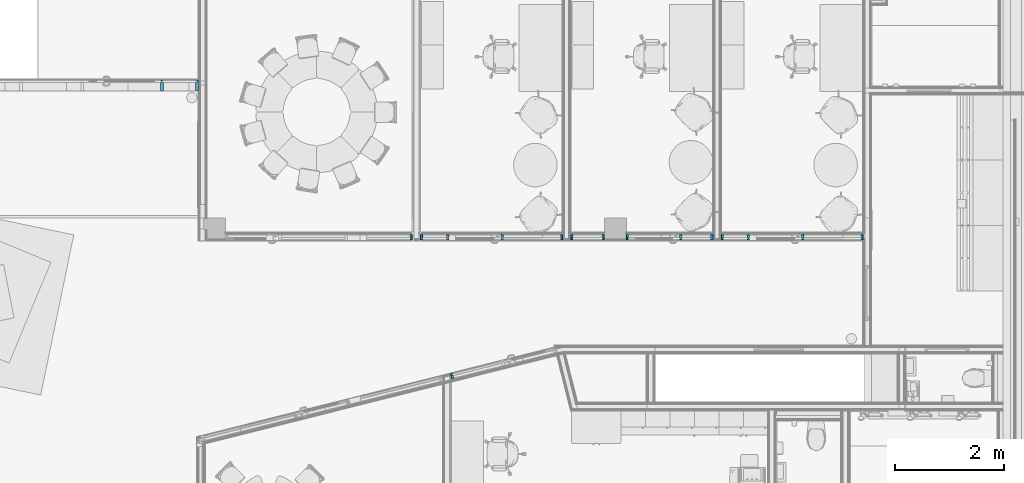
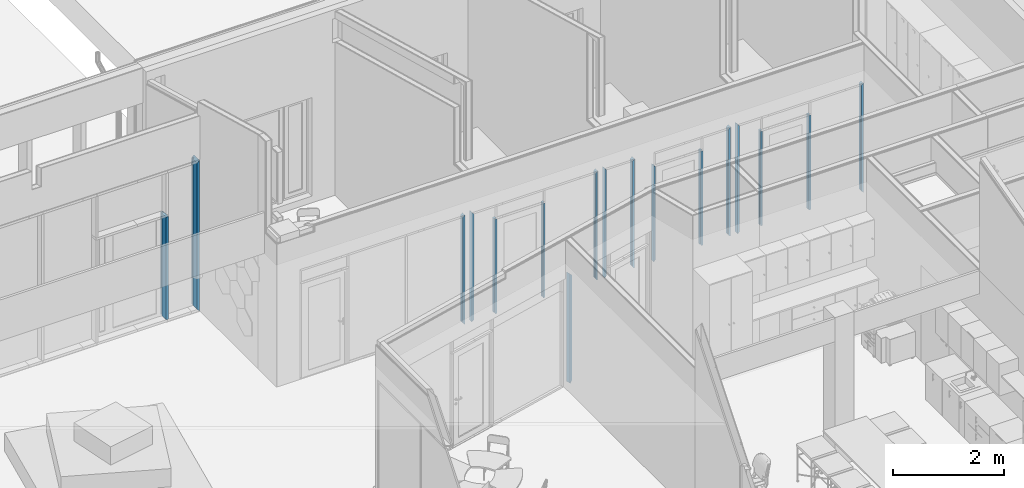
# One storey, part 3 of 153: 17 members, 7 elements without a shape of their own.
"""IFC2X3 building model written with IfcOpenShell, lengths in millimetres."""

from ifc_helpers import new_model, entity, si_unit, converted_unit, derived_unit, money_unit, direction, frame, origin_with_axes, place, context, subcontext, project, spatial, faceted_brep, source, transform, mapped, material, type_object, element, aggregate, save


model = new_model("IFC2X3")

# Units and contexts
model_context = context("Model", 3, precision=0.01, world=origin_with_axes(), true_north=direction((0.0, 1.0)))
body_context = subcontext(model_context, "Body", "Model", "MODEL_VIEW")
ifc_project = project(units=[si_unit("LENGTHUNIT", "METRE", prefix="MILLI"), si_unit("AREAUNIT", "SQUARE_METRE"), si_unit("VOLUMEUNIT", "CUBIC_METRE"), converted_unit("PLANEANGLEUNIT", "DEGREE", entity("IfcPlaneAngleMeasure", 0.0174532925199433), si_unit("PLANEANGLEUNIT", "RADIAN"), dimensions=[0, 0, 0, 0, 0, 0, 0]), money_unit("EUR"), converted_unit("TIMEUNIT", "Year", entity("IfcTimeMeasure", 31557600.0), si_unit("TIMEUNIT", "SECOND"), dimensions=[0, 0, 1, 0, 0, 0, 0]), si_unit("MASSUNIT", "GRAM", prefix="KILO"), si_unit("THERMODYNAMICTEMPERATUREUNIT", "DEGREE_CELSIUS"), si_unit("LUMINOUSINTENSITYUNIT", "LUMEN"), si_unit("ENERGYUNIT", "JOULE", prefix="MEGA"), derived_unit("THERMALCONDUCTANCEUNIT", [(si_unit("POWERUNIT", "WATT"), 1), (si_unit("LENGTHUNIT", "METRE"), -1), (si_unit("THERMODYNAMICTEMPERATUREUNIT", "KELVIN"), -1)]), derived_unit("SPECIFICHEATCAPACITYUNIT", [(si_unit("ENERGYUNIT", "JOULE"), 1), (si_unit("MASSUNIT", "GRAM", prefix="KILO"), -1), (si_unit("THERMODYNAMICTEMPERATUREUNIT", "KELVIN"), -1)]), derived_unit("MASSDENSITYUNIT", [(si_unit("MASSUNIT", "GRAM", prefix="KILO"), 1), (si_unit("VOLUMEUNIT", "CUBIC_METRE"), -1)])], contexts=[model_context])

# Site, building, storey
site_placement = place(None, frame((0.0, 0.0, 8650.0), z_axis=(0.0, 0.0, 1.0), x_axis=(1.0, 0.0, 0.0)))
site = spatial("IfcSite", under=ifc_project, at=site_placement, Name="43301:001:0844", CompositionType="ELEMENT")
building_placement = place(site_placement, origin_with_axes())
building = spatial("IfcBuilding", under=site, at=building_placement, Name="Kuressaare Ametikooli tuulikute mehaanikute õppekorpus", CompositionType="ELEMENT")
storey_placement = place(building_placement, frame((0.0, 0.0, 4100.0), z_axis=(0.0, 0.0, 1.0), x_axis=(1.0, 0.0, 0.0)))
storey = spatial("IfcBuildingStorey", under=building, at=storey_placement, Name="2.korrus", CompositionType="ELEMENT", Elevation=4100.0)

# Curtain wall, members
curtain_wall_type = type_object("IfcCurtainWallType", Name="Curtain Wall Type", PredefinedType="NOTDEFINED")
curtain_wall_1_placement = place(storey_placement, frame((116907.3849272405, 26479.57374875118, 34.9999663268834), z_axis=(0.0, 0.0, 1.0), x_axis=(1.0, 0.0, 0.0)))
curtain_wall_1 = element("IfcCurtainWall", 1, at=curtain_wall_1_placement, inside=storey, type_object=curtain_wall_type, Name="SKF-2.2,EI60")
ifc_material = material(Name="Aluminium")
member_type_1 = type_object("IfcMemberType", Name="Mullion Frame 50 x 200", PredefinedType="NOTDEFINED")
shared_shape_1 = source(origin_with_axes(), body_context, "Body", "Brep", [
    faceted_brep([(5.000000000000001, -20.0, 2275.000031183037), (5.000000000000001, 20.0, 2275.000031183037), (25.0, 19.99999999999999, 2275.000031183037), (25.0, 30.0, 2275.000031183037), (-25.0, 30.0, 2275.000031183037), (-25.0, 20.0, 2275.000031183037), (-5.000000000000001, 20.0, 2275.000031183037), (-5.000000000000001, -20.0, 2275.000031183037), (-25.0, -20.0, 2275.000031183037), (-25.0, -170.0, 2275.000031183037), (25.0, -170.0, 2275.000031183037), (25.0, -19.99999999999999, 2275.000031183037), (5.000000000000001, -20.0, 24.99999999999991), (5.000000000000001, 20.0, 24.99999999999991), (25.0, 20.0, 24.99999999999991), (25.0, 30.0, 24.99999999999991), (-25.0, 30.0, 24.99999999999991), (-25.0, 19.99999999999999, 24.99999999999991), (-5.000000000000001, 20.0, 24.99999999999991), (-5.000000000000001, -20.0, 24.99999999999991), (-25.0, -19.99999999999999, 24.99999999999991), (-25.0, -170.0, 24.99999999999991), (25.0, -170.0, 24.99999999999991), (25.0, -20.0, 24.99999999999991)], [[[0, 1, 2, 3, 4, 5, 6, 7, 8, 9, 10, 11]], [[0, 12, 13, 1]], [[1, 13, 14, 2]], [[14, 15, 3, 2]], [[4, 3, 15, 16]], [[17, 5, 4, 16]], [[5, 17, 18, 6]], [[7, 6, 18, 19]], [[8, 7, 19, 20]], [[8, 20, 21, 9]], [[10, 9, 21, 22]], [[11, 10, 22, 23]], [[11, 23, 12, 0]], [[13, 12, 23, 22, 21, 20, 19, 18, 17, 16, 15, 14]]]),
])
member_1_placement = place(curtain_wall_1_placement, frame((694.7177815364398, 0.0, 0.0), z_axis=(0.0, 0.0, 1.0), x_axis=(-1.0, 0.0, 0.0)))
member_1 = element("IfcMember", 2, at=member_1_placement, type_object=member_type_1, material=ifc_material, context=body_context, shape_type="MappedRepresentation", body=[
    mapped(shared_shape_1, transform((0.0, 0.0, 0.0), x_axis=(-1.0, 0.0, 0.0), y_axis=(0.0, -1.0, 0.0), z_axis=(0.0, 0.0, 1.0))),
])
member_type_2 = type_object("IfcMemberType", Name="Boundary Frame 50 x 200", PredefinedType="NOTDEFINED")
shared_shape_2 = source(origin_with_axes(), body_context, "Body", "Brep", [
    faceted_brep([(-5.000000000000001, -20.0, 3255.000092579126), (-25.0, -20.0, 3235.000090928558), (-25.0, -170.0, 3235.000090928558), (25.0, -170.0, 3285.000095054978), (25.0, 30.0, 3285.000095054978), (-25.0, 30.0, 3235.000090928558), (-25.0, 20.0, 3235.000090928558), (-5.000000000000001, 20.0, 3255.000092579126), (-5.000000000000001, -20.0, 4.999999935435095), (-25.0, -19.99999999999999, 24.99999967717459), (-25.0, -170.0, 24.99999967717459), (25.0, -170.0, -24.99999967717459), (25.0, 30.0, -24.99999967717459), (-25.0, 30.0, 24.99999967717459), (-25.0, 19.99999999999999, 24.99999967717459), (-5.000000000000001, 20.0, 4.999999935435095)], [[[0, 1, 2, 3, 4, 5, 6, 7]], [[0, 8, 9, 1]], [[9, 10, 2, 1]], [[2, 10, 11, 3]], [[3, 11, 12, 4]], [[4, 12, 13, 5]], [[6, 5, 13, 14]], [[14, 15, 7, 6]], [[7, 15, 8, 0]], [[8, 15, 14, 13, 12, 11, 10, 9]]]),
])
member_2_placement = place(curtain_wall_1_placement, frame((1338.89088704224, 0.0, 0.0), z_axis=(0.0, 0.0, 1.0), x_axis=(-1.0, 0.0, 0.0)))
member_2 = element("IfcMember", 3, at=member_2_placement, type_object=member_type_2, material=ifc_material, context=body_context, shape_type="MappedRepresentation", body=[
    mapped(shared_shape_2, transform((0.0, 0.0, 0.0), x_axis=(-1.0, 0.0, 0.0), y_axis=(0.0, -1.0, 0.0), z_axis=(0.0, 0.0, 1.0))),
])
aggregate(curtain_wall_1, [member_2, member_1])

# Curtain wall, member
curtain_wall_2_placement = place(storey_placement, frame((123471.3194861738, 21235.04693506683, 4.768376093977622e-05), z_axis=(0.0, 0.0, 1.0), x_axis=(1.0, 0.0, 0.0)))
curtain_wall_2 = element("IfcCurtainWall", 4, at=curtain_wall_2_placement, inside=storey, type_object=curtain_wall_type, Name="PKF-2.3")
member_type_3 = type_object("IfcMemberType", Name="Boundary Frame 40 x 90", PredefinedType="NOTDEFINED")
shared_shape_3 = source(origin_with_axes(), body_context, "Body", "Brep", [
    faceted_brep([(25.0, -15.0, 2375.000049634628), (25.0, 15.0, 2375.000049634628), (40.0, 15.0, 2360.000049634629), (40.0, 24.99999999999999, 2360.000049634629), (0.0, 24.99999999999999, 2400.000049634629), (0.0, 0.0, 2400.000049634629), (0.0, -65.0, 2400.000049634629), (40.0, -65.0, 2360.000049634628), (40.0, -15.0, 2360.000049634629), (25.0, -15.0, 24.99999999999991), (25.0, 15.0, 24.99999999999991), (40.0, 15.0, 40.00000000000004), (40.0, 24.99999999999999, 40.00000000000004), (0.0, 24.99999999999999, 0.0), (0.0, 0.0, 0.0), (0.0, -65.0, 0.0), (40.0, -65.0, 40.00000000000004), (40.0, -15.0, 40.00000000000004)], [[[0, 1, 2, 3, 4, 5, 6, 7, 8]], [[1, 0, 9, 10]], [[11, 2, 1, 10]], [[2, 11, 12, 3]], [[4, 3, 12, 13]], [[5, 4, 13, 14]], [[6, 5, 14, 15]], [[7, 6, 15, 16]], [[17, 8, 7, 16]], [[0, 8, 17, 9]], [[9, 17, 16, 15, 14, 13, 12, 11, 10]]]),
])
member_3_placement = place(curtain_wall_2_placement, frame((-573.9802841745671, -143.8645651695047, -4.768376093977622e-05), z_axis=(0.0, 0.0, 1.0), x_axis=(0.9699953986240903, 0.2431232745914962, 0.0)))
member_3 = element("IfcMember", 5, at=member_3_placement, type_object=member_type_3, material=ifc_material, context=body_context, shape_type="MappedRepresentation", body=[
    mapped(shared_shape_3, transform((0.0, 0.0, 0.0))),
])
aggregate(curtain_wall_2, [member_3])

curtain_wall_3_placement = place(storey_placement, frame((119422.8886145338, 23599.06892395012, 7.49398259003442e-05), z_axis=(0.0, 0.0, 1.0), x_axis=(1.0, 0.0, 0.0)))
curtain_wall_3 = element("IfcCurtainWall", 6, at=curtain_wall_3_placement, inside=storey, type_object=curtain_wall_type, Name="PKF-1.1")
member_4_placement = place(curtain_wall_3_placement, frame((2774.17979842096, 0.0, -7.493982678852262e-05), z_axis=(0.0, 0.0, 1.0), x_axis=(-1.0, 0.0, 0.0)))
member_4 = element("IfcMember", 7, at=member_4_placement, type_object=member_type_3, material=ifc_material, context=body_context, shape_type="MappedRepresentation", body=[
    mapped(shared_shape_3, transform((0.0, 0.0, 0.0))),
])
aggregate(curtain_wall_3, [member_4])

# Curtain wall, members
curtain_wall_4_placement = place(storey_placement, frame((123223.4159387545, 23599.06892395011, 7.152564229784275e-05), z_axis=(0.0, 0.0, 1.0), x_axis=(1.0, 0.0, 0.0)))
curtain_wall_4 = element("IfcCurtainWall", 8, at=curtain_wall_4_placement, inside=storey, type_object=curtain_wall_type, Name="PKF-1.2")
member_5_placement = place(curtain_wall_4_placement, frame((1730.652442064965, 0.0, -7.152564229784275e-05), z_axis=(0.0, 0.0, 1.0), x_axis=(-1.0, 0.0, 0.0)))
member_5 = element("IfcMember", 9, at=member_5_placement, type_object=member_type_3, material=ifc_material, context=body_context, shape_type="MappedRepresentation", body=[
    mapped(shared_shape_3, transform((0.0, 0.0, 0.0))),
])
member_6_placement = place(curtain_wall_4_placement, frame((-879.3476149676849, 0.0, 2400.000009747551), z_axis=(0.0, 0.0, -1.0), x_axis=(1.0, 0.0, 0.0)))
member_6 = element("IfcMember", 10, at=member_6_placement, type_object=member_type_3, material=ifc_material, context=body_context, shape_type="MappedRepresentation", body=[
    mapped(shared_shape_3, transform((0.0, 0.0, 0.0))),
])

curtain_wall_5_placement = place(storey_placement, frame((125409.5683670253, 23599.06892395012, 7.152564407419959e-05), z_axis=(0.0, 0.0, 1.0), x_axis=(1.0, 0.0, 0.0)))
curtain_wall_5 = element("IfcCurtainWall", 11, at=curtain_wall_5_placement, inside=storey, type_object=curtain_wall_type, Name="PKF-1.3")
member_7_placement = place(curtain_wall_5_placement, frame((-308.500043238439, 0.0, 2399.999999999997), z_axis=(0.0, 0.0, -1.0), x_axis=(1.0, 0.0, 0.0)))
member_7 = element("IfcMember", 12, at=member_7_placement, type_object=member_type_3, material=ifc_material, context=body_context, shape_type="MappedRepresentation", body=[
    mapped(shared_shape_3, transform((0.0, 0.0, 0.0))),
])
member_8_placement = place(curtain_wall_5_placement, frame((308.5000432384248, 0.0, -7.152564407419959e-05), z_axis=(0.0, 0.0, 1.0), x_axis=(-1.0, 0.0, 0.0)))
member_8 = element("IfcMember", 13, at=member_8_placement, type_object=member_type_3, material=ifc_material, context=body_context, shape_type="MappedRepresentation", body=[
    mapped(shared_shape_3, transform((0.0, 0.0, 0.0))),
])
aggregate(curtain_wall_5, [member_7, member_8])

# Curtain wall, member
curtain_wall_6_placement = place(storey_placement, frame((126664.0825969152, 23599.06892395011, 9.536752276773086e-05), z_axis=(0.0, 0.0, 1.0), x_axis=(1.0, 0.0, 0.0)))
curtain_wall_6 = element("IfcCurtainWall", 14, at=curtain_wall_6_placement, inside=storey, type_object=curtain_wall_type, Name="PKF-1.4")
member_9_placement = place(curtain_wall_6_placement, frame((1046.985793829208, 0.0, -9.536752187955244e-05), z_axis=(0.0, 0.0, 1.0), x_axis=(-1.0, 0.0, 0.0)))
member_9 = element("IfcMember", 15, at=member_9_placement, type_object=member_type_3, material=ifc_material, context=body_context, shape_type="MappedRepresentation", body=[
    mapped(shared_shape_3, transform((0.0, 0.0, 0.0))),
])

# Curtain wall, members
curtain_wall_7_placement = place(storey_placement, frame((128158.0683354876, 23599.06892395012, 7.152564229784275e-05), z_axis=(0.0, 0.0, 1.0), x_axis=(1.0, 0.0, 0.0)))
curtain_wall_7 = element("IfcCurtainWall", 16, at=curtain_wall_7_placement, inside=storey, type_object=curtain_wall_type, Name="PKF1.5")
member_10_placement = place(curtain_wall_7_placement, frame((2310.00004533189, 0.0, -7.152564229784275e-05), z_axis=(0.0, 0.0, 1.0), x_axis=(-1.0, 0.0, 0.0)))
member_10 = element("IfcMember", 17, at=member_10_placement, type_object=member_type_3, material=ifc_material, context=body_context, shape_type="MappedRepresentation", body=[
    mapped(shared_shape_3, transform((0.0, 0.0, 0.0))),
])
member_11_placement = place(curtain_wall_7_placement, frame((-300.000011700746, 0.0, 2400.000009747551), z_axis=(0.0, 0.0, -1.0), x_axis=(1.0, 0.0, 0.0)))
member_11 = element("IfcMember", 18, at=member_11_placement, type_object=member_type_3, material=ifc_material, context=body_context, shape_type="MappedRepresentation", body=[
    mapped(shared_shape_3, transform((0.0, 0.0, 0.0))),
])

# Member
shared_shape_4 = source(origin_with_axes(), body_context, "Body", "Brep", [
    faceted_brep([(25.0, -15.0, 2074.999996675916), (25.0, 15.0, 2074.999996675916), (40.0, 15.0, 2059.999996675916), (40.0, 24.99999999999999, 2059.999996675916), (0.0, 24.99999999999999, 2099.999996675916), (0.0, 0.0, 2099.999996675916), (0.0, -65.0, 2099.999996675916), (40.0, -65.0, 2059.999996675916), (40.0, -15.0, 2059.999996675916), (25.0, -15.0, 12.49999999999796), (25.0, 15.0, 12.49999999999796), (40.00000000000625, 15.0, 20.00000000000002), (40.00000000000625, 24.99999999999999, 20.00000000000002), (0.0, 24.99999999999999, 0.0), (0.0, 0.0, 0.0), (0.0, -64.99999999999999, 0.0), (40.00000000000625, -65.0, 20.00000000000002), (40.00000000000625, -15.0, 20.00000000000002)], [[[0, 1, 2, 3, 4, 5, 6, 7, 8]], [[1, 0, 9, 10]], [[11, 2, 1, 10]], [[2, 11, 12, 3]], [[13, 4, 3, 12]], [[14, 5, 4, 13]], [[15, 6, 5, 14]], [[16, 7, 6, 15]], [[17, 8, 7, 16]], [[0, 8, 17, 9]], [[9, 17, 16, 15, 14, 13, 12, 11, 10]]]),
])
member_12_placement = place(curtain_wall_6_placement, frame((-546.0142731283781, 0.0, 2099.999916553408), z_axis=(0.0, 0.0, -1.0), x_axis=(1.0, 0.0, 0.0)))
member_12 = element("IfcMember", 19, at=member_12_placement, type_object=member_type_3, material=ifc_material, context=body_context, shape_type="MappedRepresentation", body=[
    mapped(shared_shape_4, transform((0.0, 0.0, 0.0))),
])

member_type_4 = type_object("IfcMemberType", Name="Mullion Frame 40 x 90", PredefinedType="NOTDEFINED")
shared_shape_5 = source(origin_with_axes(), body_context, "Body", "Brep", [
    faceted_brep([(-5.000000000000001, -15.0, 2079.999996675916), (-20.0, -15.0, 2079.999996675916), (-20.0, -65.0, 2079.999996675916), (20.0, -65.0, 2079.999996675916), (20.0, -15.0, 2079.999996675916), (5.000000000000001, -15.0, 2079.999996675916), (5.000000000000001, 15.0, 2079.999996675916), (20.0, 15.0, 2079.999996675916), (20.0, 24.99999999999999, 2079.999996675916), (-20.0, 24.99999999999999, 2079.999996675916), (-20.0, 15.0, 2079.999996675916), (-5.000000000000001, 15.0, 2079.999996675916), (-5.000000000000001, -15.0, 10.00000000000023), (-20.0, -15.0, 10.00000000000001), (-20.0, -65.0, 10.00000000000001), (20.0, -65.0, 10.00000000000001), (20.0, -15.0, 10.00000000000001), (5.000000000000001, -15.0, 10.00000000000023), (5.000000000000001, 15.0, 10.00000000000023), (20.0, 15.0, 10.00000000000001), (20.0, 24.99999999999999, 10.00000000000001), (-20.0, 24.99999999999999, 10.00000000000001), (-20.0, 15.0, 10.00000000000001), (-5.000000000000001, 15.0, 10.00000000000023)], [[[0, 1, 2, 3, 4, 5, 6, 7, 8, 9, 10, 11]], [[1, 0, 12, 13]], [[1, 13, 14, 2]], [[2, 14, 15, 3]], [[4, 3, 15, 16]], [[4, 16, 17, 5]], [[5, 17, 18, 6]], [[7, 6, 18, 19]], [[19, 20, 8, 7]], [[8, 20, 21, 9]], [[22, 10, 9, 21]], [[11, 10, 22, 23]], [[0, 11, 23, 12]], [[23, 22, 21, 20, 19, 18, 17, 16, 15, 14, 13, 12]]]),
])
member_13_placement = place(curtain_wall_4_placement, frame((620.652434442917, 0.0, -7.152564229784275e-05), z_axis=(0.0, 0.0, 1.0), x_axis=(-1.0, 0.0, 0.0)))
member_13 = element("IfcMember", 20, at=member_13_placement, type_object=member_type_4, material=ifc_material, context=body_context, shape_type="MappedRepresentation", body=[
    mapped(shared_shape_5, transform((0.0, 0.0, 0.0))),
])

member_14_placement = place(curtain_wall_6_placement, frame((453.9857702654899, 0.0, -9.536752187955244e-05), z_axis=(0.0, 0.0, 1.0), x_axis=(-1.0, 0.0, 0.0)))
member_14 = element("IfcMember", 21, at=member_14_placement, type_object=member_type_4, material=ifc_material, context=body_context, shape_type="MappedRepresentation", body=[
    mapped(shared_shape_5, transform((0.0, 0.0, 0.0))),
])

aggregate(curtain_wall_6, [member_12, member_9, member_14])

member_15_placement = place(curtain_wall_7_placement, frame((1200.000037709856, 0.0, -7.152564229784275e-05), z_axis=(0.0, 0.0, 1.0), x_axis=(-1.0, 0.0, 0.0)))
member_15 = element("IfcMember", 22, at=member_15_placement, type_object=member_type_4, material=ifc_material, context=body_context, shape_type="MappedRepresentation", body=[
    mapped(shared_shape_5, transform((0.0, 0.0, 0.0))),
])

shared_shape_6 = source(origin_with_axes(), body_context, "Body", "Brep", [
    faceted_brep([(-5.000000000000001, -15.0, 2080.000007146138), (-20.0, -15.0, 2080.000007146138), (-20.0, -65.0, 2080.000007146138), (20.0, -65.0, 2080.000007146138), (20.0, -15.0, 2080.000007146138), (5.000000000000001, -15.0, 2080.000007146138), (5.000000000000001, 15.0, 2080.000007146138), (20.0, 15.0, 2080.000007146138), (20.0, 24.99999999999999, 2080.000007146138), (-20.0, 24.99999999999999, 2080.000007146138), (-20.0, 15.0, 2080.000007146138), (-5.000000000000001, 15.0, 2080.000007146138), (-5.000000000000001, -15.0, 10.00000000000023), (-20.0, -15.0, 10.00000000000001), (-20.0, -65.0, 10.00000000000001), (20.0, -65.0, 10.00000000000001), (20.0, -15.0, 10.00000000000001), (5.000000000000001, -15.0, 10.00000000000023), (5.000000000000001, 15.0, 10.00000000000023), (20.0, 15.0, 10.00000000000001), (20.0, 24.99999999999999, 10.00000000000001), (-20.0, 24.99999999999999, 10.00000000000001), (-20.0, 15.0, 10.00000000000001), (-5.000000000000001, 15.0, 10.00000000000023)], [[[0, 1, 2, 3, 4, 5, 6, 7, 8, 9, 10, 11]], [[1, 0, 12, 13]], [[1, 13, 14, 2]], [[2, 14, 15, 3]], [[4, 3, 15, 16]], [[4, 16, 17, 5]], [[5, 17, 18, 6]], [[7, 6, 18, 19]], [[19, 20, 8, 7]], [[8, 20, 21, 9]], [[22, 10, 9, 21]], [[11, 10, 22, 23]], [[0, 11, 23, 12]], [[23, 22, 21, 20, 19, 18, 17, 16, 15, 14, 13, 12]]]),
])
member_16_placement = place(curtain_wall_4_placement, frame((-379.3475954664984, 0.0, -7.152564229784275e-05), z_axis=(0.0, 0.0, 1.0), x_axis=(-1.0, 0.0, 0.0)))
member_16 = element("IfcMember", 23, at=member_16_placement, type_object=member_type_4, material=ifc_material, context=body_context, shape_type="MappedRepresentation", body=[
    mapped(shared_shape_6, transform((0.0, 0.0, 0.0))),
])

aggregate(curtain_wall_4, [member_5, member_6, member_13, member_16])

member_17_placement = place(curtain_wall_7_placement, frame((200.0000078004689, 0.0, -7.152564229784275e-05), z_axis=(0.0, 0.0, 1.0), x_axis=(-1.0, 0.0, 0.0)))
member_17 = element("IfcMember", 24, at=member_17_placement, type_object=member_type_4, material=ifc_material, context=body_context, shape_type="MappedRepresentation", body=[
    mapped(shared_shape_6, transform((0.0, 0.0, 0.0))),
])

aggregate(curtain_wall_7, [member_10, member_11, member_17, member_15])

save(model, "model.ifc")
